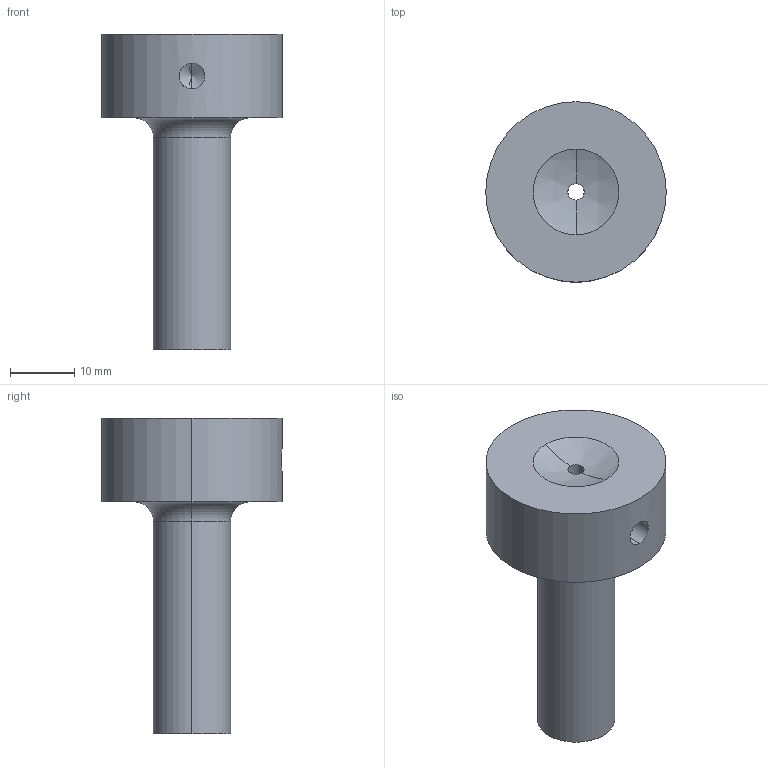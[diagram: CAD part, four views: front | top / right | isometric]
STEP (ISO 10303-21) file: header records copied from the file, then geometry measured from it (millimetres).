
FILE_DESCRIPTION (( 'STEP AP214' ), '1' );
FILE_NAME ('IMC-I1-12x36-2,5-0,5.STEP', '2023-01-11T07:40:47', ( '' ), ( '' ), 'SwSTEP 2.0', 'SolidWorks 2019', '' );
FILE_SCHEMA (( 'AUTOMOTIVE_DESIGN' ));
Length unit declared in the file: millimetre
Products named in the file (1): IMC-I1-12x36-2,5-0,5
Bounding box: 28 x 28 x 49 mm (x, y, z)
Volume: 11565.9 mm3; surface area: 4274.2 mm2
Topology: 1 solids, 1 shells, 21 faces, 50 edges, 29 vertices
Faces by surface type: cylinder 8, cone 6, plane 3, sphere 2, torus 2
Entity records: 678 total; most frequent: CARTESIAN_POINT 151, DIRECTION 118, ORIENTED_EDGE 92, AXIS2_PLACEMENT_3D 52, EDGE_CURVE 46, CIRCLE 30, VERTEX_POINT 29, EDGE_LOOP 25
